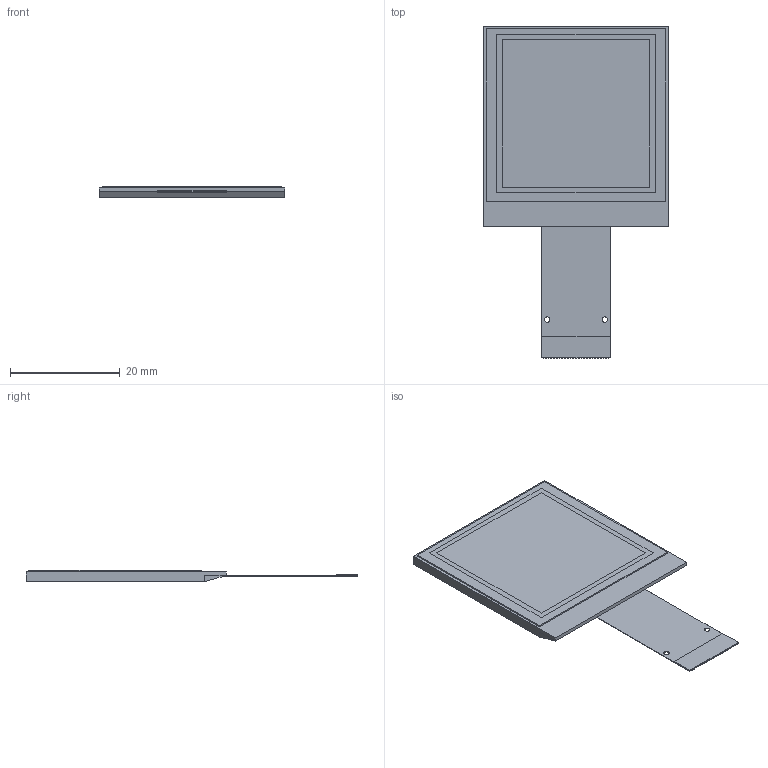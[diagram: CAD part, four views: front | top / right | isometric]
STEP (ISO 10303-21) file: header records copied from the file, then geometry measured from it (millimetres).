
FILE_DESCRIPTION (( 'STEP AP214' ), '1' );
FILE_NAME ('CFAL128128A0-015.STEP', '2021-10-15T18:51:42', ( '' ), ( '' ), 'SwSTEP 2.0', 'SolidWorks 2021', '' );
FILE_SCHEMA (( 'AUTOMOTIVE_DESIGN' ));
Length unit declared in the file: millimetre
Products named in the file (1): CFAL128128A0-015
Bounding box: 33.8 x 60.5 x 2.05 mm (x, y, z)
Volume: 2445 mm3; surface area: 5932.4 mm2
Topology: 29 solids, 29 shells, 181 faces, 371 edges, 250 vertices
Faces by surface type: plane 177, cylinder 4
Entity records: 6775 total; most frequent: CARTESIAN_POINT 803, DIRECTION 743, ORIENTED_EDGE 742, EDGE_CURVE 371, LINE 363, VECTOR 363, VERTEX_POINT 250, UNCERTAINTY_MEASURE_WITH_UNIT 195
